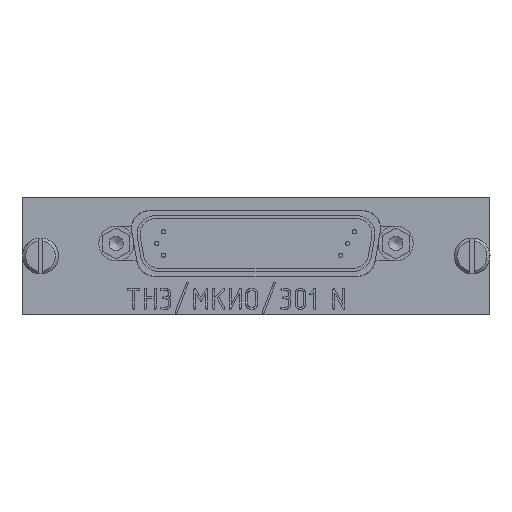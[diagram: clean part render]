
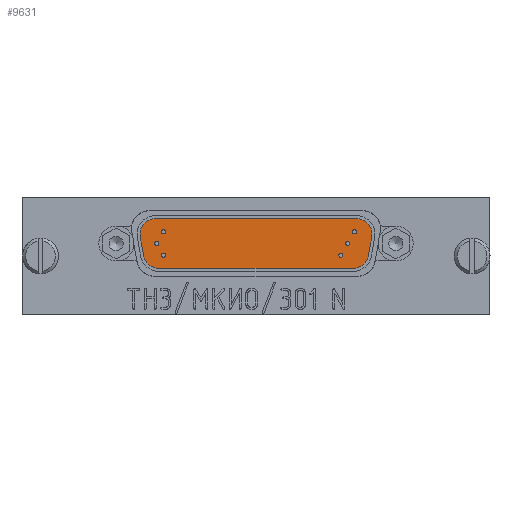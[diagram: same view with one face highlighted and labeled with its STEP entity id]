
A CAD part, left-side view. The second image highlights one B-rep face of the part: STEP entity #9631.
In plain terms, the highlighted planar face has unit normal (-1, 0, 0).
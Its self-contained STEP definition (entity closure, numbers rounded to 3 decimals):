
#9631=ADVANCED_FACE('',(#19864,#19866,#19868,#19870,#19872,#19874,#19876),#19878,
.T.);
#19864=FACE_BOUND('',#19865,.T.);
#19865=EDGE_LOOP('',(#27732,#27733,#27734,#27735,#27736,#27737,#27738,#27739));
#19866=FACE_BOUND('',#19867,.T.);
#19867=EDGE_LOOP('',(#27740));
#19868=FACE_BOUND('',#19869,.T.);
#19869=EDGE_LOOP('',(#27741));
#19870=FACE_BOUND('',#19871,.T.);
#19871=EDGE_LOOP('',(#27742));
#19872=FACE_BOUND('',#19873,.T.);
#19873=EDGE_LOOP('',(#27743));
#19874=FACE_BOUND('',#19875,.T.);
#19875=EDGE_LOOP('',(#27744));
#19876=FACE_BOUND('',#19877,.T.);
#19877=EDGE_LOOP('',(#27745));
#19878=PLANE('',#19879);
#19879=AXIS2_PLACEMENT_3D('',#19880,#19881,#19882);
#19880=CARTESIAN_POINT('',(-92.794,31.,29.07));
#19881=DIRECTION('',(-1.,0.,0.));
#19882=DIRECTION('',(0.,0.,1.));
#27732=ORIENTED_EDGE('',*,*,#31616,.T.);
#27733=ORIENTED_EDGE('',*,*,#31631,.T.);
#27734=ORIENTED_EDGE('',*,*,#31629,.T.);
#27735=ORIENTED_EDGE('',*,*,#31627,.T.);
#27736=ORIENTED_EDGE('',*,*,#31625,.T.);
#27737=ORIENTED_EDGE('',*,*,#31623,.T.);
#27738=ORIENTED_EDGE('',*,*,#31621,.T.);
#27739=ORIENTED_EDGE('',*,*,#31619,.T.);
#27740=ORIENTED_EDGE('',*,*,#31926,.T.);
#27741=ORIENTED_EDGE('',*,*,#31927,.T.);
#27742=ORIENTED_EDGE('',*,*,#31928,.T.);
#27743=ORIENTED_EDGE('',*,*,#31929,.T.);
#27744=ORIENTED_EDGE('',*,*,#31930,.T.);
#27745=ORIENTED_EDGE('',*,*,#31931,.T.);
#31616=EDGE_CURVE('',#37018,#37019,#37020,.T.);
#31619=EDGE_CURVE('',#37023,#37018,#37024,.T.);
#31621=EDGE_CURVE('',#37026,#37023,#37027,.T.);
#31623=EDGE_CURVE('',#37029,#37026,#37030,.T.);
#31625=EDGE_CURVE('',#37032,#37029,#37033,.T.);
#31627=EDGE_CURVE('',#37035,#37032,#37036,.T.);
#31629=EDGE_CURVE('',#37038,#37035,#37039,.T.);
#31631=EDGE_CURVE('',#37019,#37038,#37041,.T.);
#31926=EDGE_CURVE('',#37516,#37516,#37517,.T.);
#31927=EDGE_CURVE('',#37518,#37518,#37519,.T.);
#31928=EDGE_CURVE('',#37520,#37520,#37521,.T.);
#31929=EDGE_CURVE('',#37522,#37522,#37523,.T.);
#31930=EDGE_CURVE('',#37524,#37524,#37525,.T.);
#31931=EDGE_CURVE('',#37526,#37526,#37527,.T.);
#37018=VERTEX_POINT('',#50847);
#37019=VERTEX_POINT('',#50848);
#37020=LINE('',#50849,#50850);
#37023=VERTEX_POINT('',#50858);
#37024=CIRCLE('',#50859,2.6);
#37026=VERTEX_POINT('',#50866);
#37027=LINE('',#50867,#50868);
#37029=VERTEX_POINT('',#50873);
#37030=CIRCLE('',#50874,2.6);
#37032=VERTEX_POINT('',#50881);
#37033=LINE('',#50882,#50883);
#37035=VERTEX_POINT('',#50888);
#37036=CIRCLE('',#50889,2.6);
#37038=VERTEX_POINT('',#50896);
#37039=LINE('',#50897,#50898);
#37041=CIRCLE('',#50903,2.6);
#37516=VERTEX_POINT('',#52067);
#37517=CIRCLE('',#52068,0.35);
#37518=VERTEX_POINT('',#52072);
#37519=CIRCLE('',#52073,0.35);
#37520=VERTEX_POINT('',#52077);
#37521=CIRCLE('',#52078,0.35);
#37522=VERTEX_POINT('',#52082);
#37523=CIRCLE('',#52083,0.35);
#37524=VERTEX_POINT('',#52087);
#37525=CIRCLE('',#52088,0.35);
#37526=VERTEX_POINT('',#52092);
#37527=CIRCLE('',#52093,0.35);
#50847=CARTESIAN_POINT('',(-92.794,74.073,31.19));
#50848=CARTESIAN_POINT('',(-92.794,41.427,31.19));
#50849=CARTESIAN_POINT('',(-92.794,74.073,31.19));
#50850=VECTOR('',#50851,1.);
#50851=DIRECTION('',(0.,-1.,0.));
#50858=CARTESIAN_POINT('',(-92.794,76.633,33.339));
#50859=AXIS2_PLACEMENT_3D('',#50860,#50861,#50862);
#50860=CARTESIAN_POINT('',(-92.794,74.073,33.79));
#50861=DIRECTION('',(-1.,0.,0.));
#50862=DIRECTION('',(0.,0.985,-0.174));
#50866=CARTESIAN_POINT('',(-92.794,77.19,36.499));
#50867=CARTESIAN_POINT('',(-92.794,77.19,36.499));
#50868=VECTOR('',#50869,1.);
#50869=DIRECTION('',(0.,-0.174,-0.985));
#50873=CARTESIAN_POINT('',(-92.794,74.63,39.55));
#50874=AXIS2_PLACEMENT_3D('',#50875,#50876,#50877);
#50875=CARTESIAN_POINT('',(-92.794,74.63,36.95));
#50876=DIRECTION('',(-1.,0.,0.));
#50877=DIRECTION('',(0.,0.,1.));
#50881=CARTESIAN_POINT('',(-92.794,40.87,39.55));
#50882=CARTESIAN_POINT('',(-92.794,40.87,39.55));
#50883=VECTOR('',#50884,1.);
#50884=DIRECTION('',(0.,1.,0.));
#50888=CARTESIAN_POINT('',(-92.794,38.309,36.499));
#50889=AXIS2_PLACEMENT_3D('',#50890,#50891,#50892);
#50890=CARTESIAN_POINT('',(-92.794,40.87,36.95));
#50891=DIRECTION('',(-1.,0.,0.));
#50892=DIRECTION('',(0.,-0.985,-0.174));
#50896=CARTESIAN_POINT('',(-92.794,38.867,33.339));
#50897=CARTESIAN_POINT('',(-92.794,38.867,33.339));
#50898=VECTOR('',#50899,1.);
#50899=DIRECTION('',(0.,-0.174,0.985));
#50903=AXIS2_PLACEMENT_3D('',#50904,#50905,#50906);
#50904=CARTESIAN_POINT('',(-92.794,41.427,33.79));
#50905=DIRECTION('',(-1.,0.,0.));
#50906=DIRECTION('',(0.,0.,-1.));
#52067=CARTESIAN_POINT('',(-92.794,40.86,37.35));
#52068=AXIS2_PLACEMENT_3D('',#52069,#52070,#52071);
#52069=CARTESIAN_POINT('',(-92.794,41.21,37.35));
#52070=DIRECTION('',(1.,0.,0.));
#52071=DIRECTION('',(0.,-1.,0.));
#52072=CARTESIAN_POINT('',(-92.794,74.07,35.37));
#52073=AXIS2_PLACEMENT_3D('',#52074,#52075,#52076);
#52074=CARTESIAN_POINT('',(-92.794,74.42,35.37));
#52075=DIRECTION('',(1.,0.,0.));
#52076=DIRECTION('',(0.,-1.,0.));
#52077=CARTESIAN_POINT('',(-92.794,42.01,35.37));
#52078=AXIS2_PLACEMENT_3D('',#52079,#52080,#52081);
#52079=CARTESIAN_POINT('',(-92.794,42.36,35.37));
#52080=DIRECTION('',(1.,0.,0.));
#52081=DIRECTION('',(0.,-1.,0.));
#52082=CARTESIAN_POINT('',(-92.794,72.92,33.39));
#52083=AXIS2_PLACEMENT_3D('',#52084,#52085,#52086);
#52084=CARTESIAN_POINT('',(-92.794,73.27,33.39));
#52085=DIRECTION('',(1.,0.,0.));
#52086=DIRECTION('',(0.,-1.,0.));
#52087=CARTESIAN_POINT('',(-92.794,43.15,33.39));
#52088=AXIS2_PLACEMENT_3D('',#52089,#52090,#52091);
#52089=CARTESIAN_POINT('',(-92.794,43.5,33.39));
#52090=DIRECTION('',(1.,0.,0.));
#52091=DIRECTION('',(0.,-1.,0.));
#52092=CARTESIAN_POINT('',(-92.794,72.92,37.35));
#52093=AXIS2_PLACEMENT_3D('',#52094,#52095,#52096);
#52094=CARTESIAN_POINT('',(-92.794,73.27,37.35));
#52095=DIRECTION('',(1.,0.,0.));
#52096=DIRECTION('',(0.,-1.,0.));
